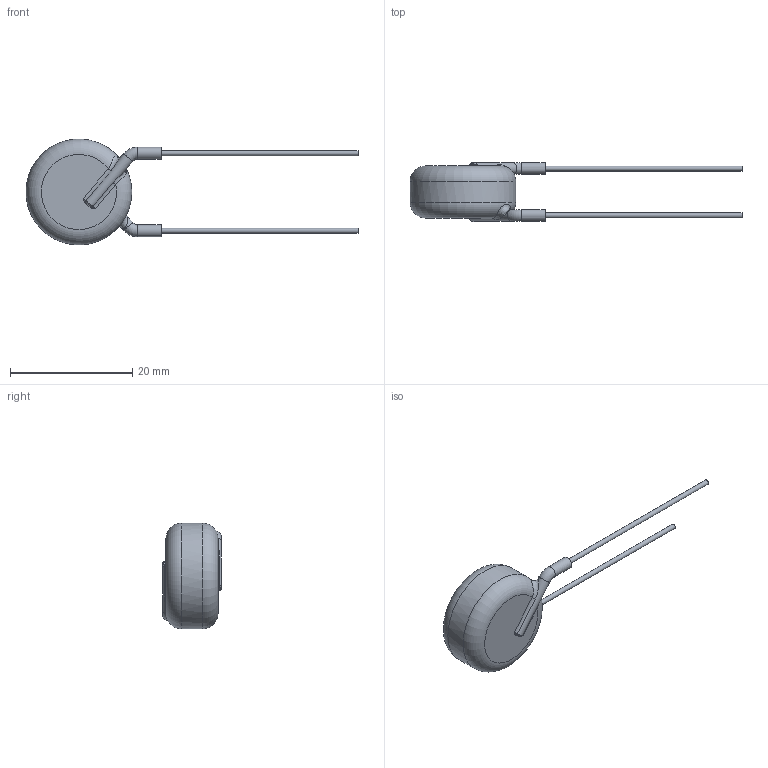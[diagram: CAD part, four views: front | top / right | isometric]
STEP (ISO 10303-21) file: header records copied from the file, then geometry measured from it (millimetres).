
FILE_DESCRIPTION((''),'2;1');
FILE_NAME('I:\Marketing\M6t1\3D-Models\Zchng-Werk-3\Upload for homepage\Ceramite\X5F-10kV\615R100GAT10\615R100GAT10.stp','2015-08-28T09:41:35',(''),(''),'Autodesk Inventor 2013','Autodesk Inventor 2013','');
FILE_SCHEMA(('AUTOMOTIVE_DESIGN { 1 0 10303 214 1 1 1 1 }'));
Length unit declared in the file: centimetre
Products named in the file (1): 615R100GAT10
Bounding box: 54.3 x 9.65 x 17.3 mm (x, y, z)
Volume: 1958 mm3; surface area: 1073.4 mm2
Topology: 1 solids, 1 shells, 41 faces, 92 edges, 51 vertices
Faces by surface type: cylinder 13, bspline 10, torus 10, plane 8
Full cylindrical faces by diameter (mm): 0.81 x2, 1.95 x4, 17.3 x1
Entity records: 1515 total; most frequent: CARTESIAN_POINT 682, DIRECTION 152, ORIENTED_EDGE 140, AXIS2_PLACEMENT_3D 70, EDGE_CURVE 70, EDGE_LOOP 54, VERTEX_POINT 44, STYLED_ITEM 42
